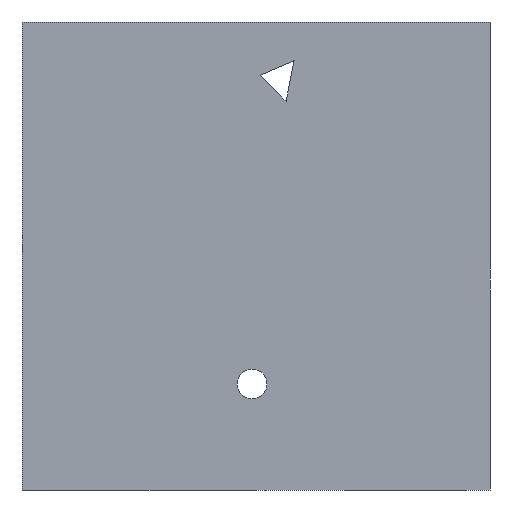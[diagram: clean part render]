
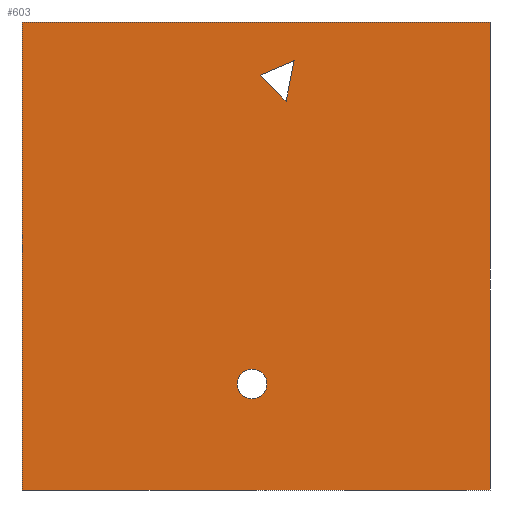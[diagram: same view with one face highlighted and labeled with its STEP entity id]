
A CAD part, left-side view. The second image highlights one B-rep face of the part: STEP entity #603.
In plain terms, the highlighted planar face has unit normal (-1, 0, 0).
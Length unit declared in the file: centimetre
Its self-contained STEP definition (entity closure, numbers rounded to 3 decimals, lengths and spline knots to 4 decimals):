
#25 = LINE ( 'NONE', #691, #476 ) ;
#34 = CARTESIAN_POINT ( 'NONE',  ( 0., 508.4022, 226.5497 ) ) ;
#42 = VECTOR ( 'NONE', #443, 100. ) ;
#44 = DIRECTION ( 'NONE',  ( 1., 0., 0. ) ) ;
#47 = VERTEX_POINT ( 'NONE', #375 ) ;
#52 = VECTOR ( 'NONE', #239, 100. ) ;
#57 = ORIENTED_EDGE ( 'NONE', *, *, #91, .T. ) ;
#82 = CARTESIAN_POINT ( 'NONE',  ( 0., 0., 1000. ) ) ;
#91 = EDGE_CURVE ( 'NONE', #452, #539, #281, .T. ) ;
#103 = VERTEX_POINT ( 'NONE', #209 ) ;
#123 = EDGE_CURVE ( 'NONE', #428, #103, #453, .T. ) ;
#139 = EDGE_CURVE ( 'NONE', #47, #374, #1040, .T. ) ;
#140 = ORIENTED_EDGE ( 'NONE', *, *, #207, .T. ) ;
#160 = EDGE_CURVE ( 'NONE', #531, #47, #296, .T. ) ;
#163 = DIRECTION ( 'NONE',  ( 0., 0., -1. ) ) ;
#192 = DIRECTION ( 'NONE',  ( 0., -1., 0. ) ) ;
#207 = EDGE_CURVE ( 'NONE', #539, #452, #466, .T. ) ;
#209 = CARTESIAN_POINT ( 'NONE',  ( 0., 435.7385, 830.9427 ) ) ;
#222 = LINE ( 'NONE', #554, #731 ) ;
#239 = DIRECTION ( 'NONE',  ( 0., -0.195, 0.981 ) ) ;
#242 = VECTOR ( 'NONE', #326, 100. ) ;
#245 = FACE_BOUND ( 'NONE', #787, .T. ) ;
#262 = CARTESIAN_POINT ( 'NONE',  ( 0., 1000., 1000. ) ) ;
#280 = DIRECTION ( 'NONE',  ( 0., -0.707, -0.707 ) ) ;
#281 = CIRCLE ( 'NONE', #510, 31.71 ) ;
#285 = EDGE_LOOP ( 'NONE', ( #870, #960, #457, #504 ) ) ;
#296 = LINE ( 'NONE', #637, #42 ) ;
#316 = CARTESIAN_POINT ( 'NONE',  ( 0., 491.1663, 886.3706 ) ) ;
#321 = LINE ( 'NONE', #387, #52 ) ;
#323 = EDGE_CURVE ( 'NONE', #365, #374, #1070, .T. ) ;
#326 = DIRECTION ( 'NONE',  ( 0., 0., -1. ) ) ;
#331 = CARTESIAN_POINT ( 'NONE',  ( 0., 508.4022, 194.8397 ) ) ;
#332 = CARTESIAN_POINT ( 'NONE',  ( 0., 1000., 1000. ) ) ;
#356 = CARTESIAN_POINT ( 'NONE',  ( 0., 418.4334, 917.791 ) ) ;
#365 = VERTEX_POINT ( 'NONE', #819 ) ;
#374 = VERTEX_POINT ( 'NONE', #659 ) ;
#375 = CARTESIAN_POINT ( 'NONE',  ( 0., 1000., 0. ) ) ;
#387 = CARTESIAN_POINT ( 'NONE',  ( 0., 435.7385, 830.9427 ) ) ;
#428 = VERTEX_POINT ( 'NONE', #316 ) ;
#443 = DIRECTION ( 'NONE',  ( 0., 0., -1. ) ) ;
#452 = VERTEX_POINT ( 'NONE', #331 ) ;
#453 = LINE ( 'NONE', #796, #1027 ) ;
#457 = ORIENTED_EDGE ( 'NONE', *, *, #459, .F. ) ;
#458 = CARTESIAN_POINT ( 'NONE',  ( 0., 1000., 0. ) ) ;
#459 = EDGE_CURVE ( 'NONE', #531, #365, #222, .T. ) ;
#461 = EDGE_CURVE ( 'NONE', #103, #644, #321, .T. ) ;
#466 = CIRCLE ( 'NONE', #989, 31.71 ) ;
#476 = VECTOR ( 'NONE', #1015, 100. ) ;
#477 = DIRECTION ( 'NONE',  ( 0., 0., -1. ) ) ;
#504 = ORIENTED_EDGE ( 'NONE', *, *, #160, .T. ) ;
#510 = AXIS2_PLACEMENT_3D ( 'NONE', #34, #44, #793 ) ;
#531 = VERTEX_POINT ( 'NONE', #332 ) ;
#539 = VERTEX_POINT ( 'NONE', #670 ) ;
#554 = CARTESIAN_POINT ( 'NONE',  ( 0., 1000., 1000. ) ) ;
#561 = VECTOR ( 'NONE', #192, 100. ) ;
#566 = AXIS2_PLACEMENT_3D ( 'NONE', #262, #909, #163 ) ;
#584 = FACE_OUTER_BOUND ( 'NONE', #285, .T. ) ;
#593 = PLANE ( 'NONE',  #566 ) ;
#603 = ADVANCED_FACE ( 'NONE', ( #245, #993, #584 ), #593, .F. ) ;
#637 = CARTESIAN_POINT ( 'NONE',  ( 0., 1000., 1000. ) ) ;
#644 = VERTEX_POINT ( 'NONE', #356 ) ;
#656 = EDGE_LOOP ( 'NONE', ( #671, #755, #937 ) ) ;
#659 = CARTESIAN_POINT ( 'NONE',  ( 0., 0., 0. ) ) ;
#670 = CARTESIAN_POINT ( 'NONE',  ( 0., 508.4022, 258.2596 ) ) ;
#671 = ORIENTED_EDGE ( 'NONE', *, *, #123, .F. ) ;
#691 = CARTESIAN_POINT ( 'NONE',  ( 0., 418.4334, 917.791 ) ) ;
#731 = VECTOR ( 'NONE', #884, 100. ) ;
#755 = ORIENTED_EDGE ( 'NONE', *, *, #817, .F. ) ;
#787 = EDGE_LOOP ( 'NONE', ( #57, #140 ) ) ;
#788 = CARTESIAN_POINT ( 'NONE',  ( 0., 508.4022, 226.5497 ) ) ;
#793 = DIRECTION ( 'NONE',  ( 0., 0., -1. ) ) ;
#796 = CARTESIAN_POINT ( 'NONE',  ( 0., 491.1663, 886.3706 ) ) ;
#817 = EDGE_CURVE ( 'NONE', #644, #428, #25, .T. ) ;
#819 = CARTESIAN_POINT ( 'NONE',  ( 0., 0., 1000. ) ) ;
#870 = ORIENTED_EDGE ( 'NONE', *, *, #139, .T. ) ;
#884 = DIRECTION ( 'NONE',  ( 0., -1., 0. ) ) ;
#909 = DIRECTION ( 'NONE',  ( 1., 0., 0. ) ) ;
#937 = ORIENTED_EDGE ( 'NONE', *, *, #461, .F. ) ;
#960 = ORIENTED_EDGE ( 'NONE', *, *, #323, .F. ) ;
#989 = AXIS2_PLACEMENT_3D ( 'NONE', #788, #1049, #477 ) ;
#993 = FACE_BOUND ( 'NONE', #656, .T. ) ;
#1015 = DIRECTION ( 'NONE',  ( 0., 0.918, -0.397 ) ) ;
#1027 = VECTOR ( 'NONE', #280, 100. ) ;
#1040 = LINE ( 'NONE', #458, #561 ) ;
#1049 = DIRECTION ( 'NONE',  ( 1., 0., 0. ) ) ;
#1070 = LINE ( 'NONE', #82, #242 ) ;
